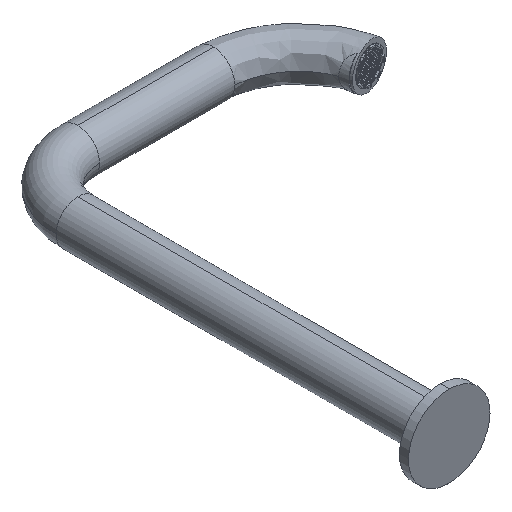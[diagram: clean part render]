
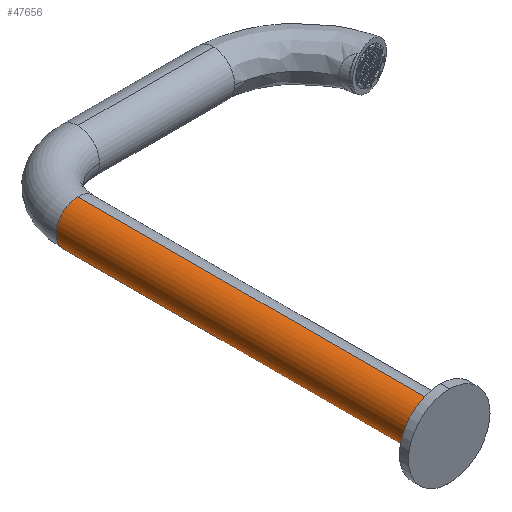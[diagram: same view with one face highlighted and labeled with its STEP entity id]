
A CAD part, isometric view. The second image highlights one B-rep face of the part: STEP entity #47656.
In plain terms, the highlighted cylindrical face has radius 12 mm (diameter 24 mm), a partial arc.
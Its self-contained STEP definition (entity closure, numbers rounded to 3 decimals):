
#540 = ORIENTED_EDGE ( 'NONE', *, *, #26738, .T. ) ;
#4289 = EDGE_CURVE ( 'NONE', #24067, #41087, #28423, .T. ) ;
#4471 = DIRECTION ( 'NONE',  ( 1., 0., 0. ) ) ;
#5089 = CARTESIAN_POINT ( 'NONE',  ( 0., 200., 0. ) ) ;
#5764 = VERTEX_POINT ( 'NONE', #17044 ) ;
#7254 = ORIENTED_EDGE ( 'NONE', *, *, #4289, .T. ) ;
#8471 = EDGE_LOOP ( 'NONE', ( #18343, #42570, #7254, #540, #12480 ) ) ;
#9727 = CARTESIAN_POINT ( 'NONE',  ( 0., 200., -12. ) ) ;
#11137 = EDGE_CURVE ( 'NONE', #5764, #29116, #25145, .T. ) ;
#12480 = ORIENTED_EDGE ( 'NONE', *, *, #22737, .T. ) ;
#15133 = DIRECTION ( 'NONE',  ( 0., -1., 0. ) ) ;
#15305 = CARTESIAN_POINT ( 'NONE',  ( 0., 0., 12. ) ) ;
#15941 = CYLINDRICAL_SURFACE ( 'NONE', #28712, 12. ) ;
#16130 = CARTESIAN_POINT ( 'NONE',  ( 0., 0., 12. ) ) ;
#17044 = CARTESIAN_POINT ( 'NONE',  ( 0., 0., -12. ) ) ;
#18238 = CIRCLE ( 'NONE', #31844, 12. ) ;
#18343 = ORIENTED_EDGE ( 'NONE', *, *, #11137, .F. ) ;
#21457 = CIRCLE ( 'NONE', #26280, 12. ) ;
#22737 = EDGE_CURVE ( 'NONE', #51723, #29116, #18238, .T. ) ;
#23723 = DIRECTION ( 'NONE',  ( 1., 0., 0. ) ) ;
#24005 = DIRECTION ( 'NONE',  ( 1., 0., 0. ) ) ;
#24067 = VERTEX_POINT ( 'NONE', #15305 ) ;
#24220 = CARTESIAN_POINT ( 'NONE',  ( 0., 0., 0. ) ) ;
#24892 = CARTESIAN_POINT ( 'NONE',  ( 0., 200., 0. ) ) ;
#25145 = LINE ( 'NONE', #48537, #50115 ) ;
#26280 = AXIS2_PLACEMENT_3D ( 'NONE', #5089, #27640, #4471 ) ;
#26738 = EDGE_CURVE ( 'NONE', #41087, #51723, #21457, .T. ) ;
#27640 = DIRECTION ( 'NONE',  ( 0., -1., 0. ) ) ;
#27943 = CARTESIAN_POINT ( 'NONE',  ( 0., 0., 0. ) ) ;
#28423 = LINE ( 'NONE', #16130, #50750 ) ;
#28428 = AXIS2_PLACEMENT_3D ( 'NONE', #27943, #47114, #24005 ) ;
#28712 = AXIS2_PLACEMENT_3D ( 'NONE', #24220, #34537, #33641 ) ;
#29116 = VERTEX_POINT ( 'NONE', #9727 ) ;
#31844 = AXIS2_PLACEMENT_3D ( 'NONE', #24892, #15133, #23723 ) ;
#33641 = DIRECTION ( 'NONE',  ( 0., 0., 1. ) ) ;
#34537 = DIRECTION ( 'NONE',  ( 0., 1., 0. ) ) ;
#34740 = DIRECTION ( 'NONE',  ( 0., 1., 0. ) ) ;
#35498 = DIRECTION ( 'NONE',  ( 0., 1., 0. ) ) ;
#41087 = VERTEX_POINT ( 'NONE', #46652 ) ;
#41928 = CARTESIAN_POINT ( 'NONE',  ( -12., 200., 0. ) ) ;
#42570 = ORIENTED_EDGE ( 'NONE', *, *, #44926, .F. ) ;
#43651 = FACE_OUTER_BOUND ( 'NONE', #8471, .T. ) ;
#44926 = EDGE_CURVE ( 'NONE', #24067, #5764, #50781, .T. ) ;
#46652 = CARTESIAN_POINT ( 'NONE',  ( 0., 200., 12. ) ) ;
#47114 = DIRECTION ( 'NONE',  ( 0., -1., 0. ) ) ;
#47656 = ADVANCED_FACE ( 'NONE', ( #43651 ), #15941, .T. ) ;
#48537 = CARTESIAN_POINT ( 'NONE',  ( 0., 0., -12. ) ) ;
#50115 = VECTOR ( 'NONE', #35498, 1000. ) ;
#50750 = VECTOR ( 'NONE', #34740, 1000. ) ;
#50781 = CIRCLE ( 'NONE', #28428, 12. ) ;
#51723 = VERTEX_POINT ( 'NONE', #41928 ) ;
